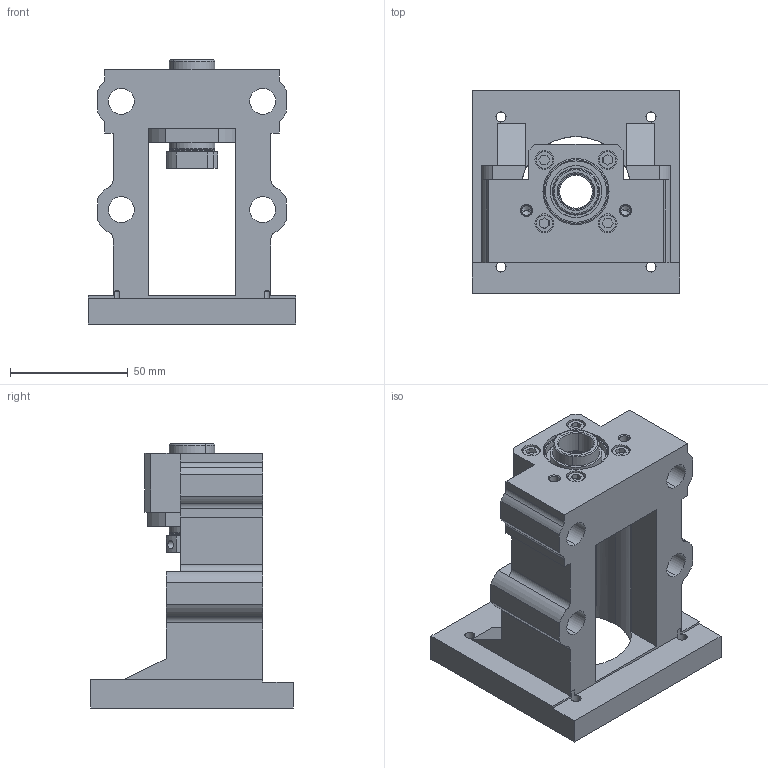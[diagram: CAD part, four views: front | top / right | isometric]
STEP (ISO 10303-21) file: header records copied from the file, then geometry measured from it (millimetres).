
FILE_DESCRIPTION (( 'STEP AP203' ), '1' );
FILE_NAME ('MBCE15-EP.STEP', '2023-01-12T05:08:35', ( '' ), ( '' ), 'SwSTEP 2.0', 'SolidWorks 2018', '' );
FILE_SCHEMA (( 'CONFIG_CONTROL_DESIGN' ));
Length unit declared in the file: millimetre
Products named in the file (12): EAFK15; 7002內圈; MBCE15-EP; 7002鋼珠4.7625; 7002; MBC15; BK系列密封圈_BK15密封圈; MBCE15-EP_網路下載圖; M15鎖固螺帽_M15; 7002外圈; 螺絲_M4L25; 7002保持器
Assembly tree (28 placements, depth 3):
  MBCE15-EP
    MBCE15-EP_網路下載圖
    7002  x2
      7002外圈
      7002保持器
      7002內圈
      7002鋼珠4.7625
    MBC15
    BK系列密封圈_BK15密封圈  x2
    M15鎖固螺帽_M15
    螺絲_M4L25  x4
    EAFK15  x2
Bounding box: 88 x 86 x 112 mm (x, y, z)
Volume: 198790 mm3; surface area: 78271.3 mm2
Topology: 41 solids, 42 shells, 562 faces, 1403 edges, 886 vertices
Faces by surface type: cylinder 233, plane 143, torus 96, sphere 48, cone 42
Entity records: 14175 total; most frequent: CARTESIAN_POINT 3604, DIRECTION 1985, ORIENTED_EDGE 1746, EDGE_CURVE 873, AXIS2_PLACEMENT_3D 793, VERTEX_POINT 550, EDGE_LOOP 447, CIRCLE 408
